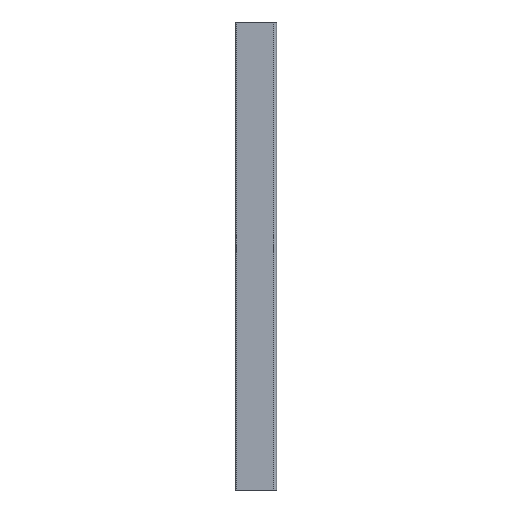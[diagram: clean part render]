
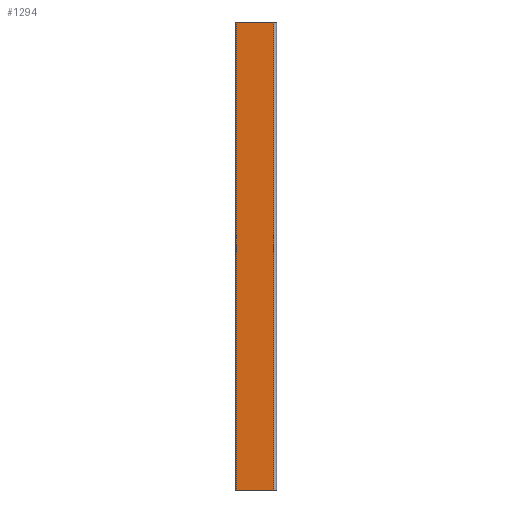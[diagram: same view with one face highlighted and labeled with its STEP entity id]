
A CAD part, front view. The second image highlights one B-rep face of the part: STEP entity #1294.
In plain terms, the highlighted planar face has unit normal (0, -1, 0).
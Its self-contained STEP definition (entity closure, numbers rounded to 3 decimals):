
#29 = ORIENTED_EDGE ( 'NONE', *, *, #627, .T. ) ;
#53 = DIRECTION ( 'NONE',  ( 1., 0., 0. ) ) ;
#68 = CARTESIAN_POINT ( 'NONE',  ( -10.5, -15., 0. ) ) ;
#135 = ORIENTED_EDGE ( 'NONE', *, *, #1273, .F. ) ;
#181 = DIRECTION ( 'NONE',  ( 1., 0., 0. ) ) ;
#210 = EDGE_LOOP ( 'NONE', ( #135, #1396, #328, #29 ) ) ;
#260 = CARTESIAN_POINT ( 'NONE',  ( 30.5, -15., 0. ) ) ;
#264 = DIRECTION ( 'NONE',  ( 0., 0., -1. ) ) ;
#273 = VECTOR ( 'NONE', #53, 1000. ) ;
#299 = PLANE ( 'NONE',  #496 ) ;
#301 = CARTESIAN_POINT ( 'NONE',  ( 30.5, -15., -500. ) ) ;
#328 = ORIENTED_EDGE ( 'NONE', *, *, #1003, .T. ) ;
#361 = VERTEX_POINT ( 'NONE', #260 ) ;
#371 = LINE ( 'NONE', #821, #721 ) ;
#470 = CARTESIAN_POINT ( 'NONE',  ( -9.5, -15., 0. ) ) ;
#496 = AXIS2_PLACEMENT_3D ( 'NONE', #729, #1166, #608 ) ;
#499 = LINE ( 'NONE', #921, #273 ) ;
#526 = CARTESIAN_POINT ( 'NONE',  ( -9.5, -15., -500. ) ) ;
#563 = VECTOR ( 'NONE', #181, 1000. ) ;
#608 = DIRECTION ( 'NONE',  ( 1., 0., 0. ) ) ;
#612 = VERTEX_POINT ( 'NONE', #470 ) ;
#627 = EDGE_CURVE ( 'NONE', #1066, #361, #1320, .T. ) ;
#679 = CARTESIAN_POINT ( 'NONE',  ( 30.5, -15., -500. ) ) ;
#721 = VECTOR ( 'NONE', #264, 1000. ) ;
#729 = CARTESIAN_POINT ( 'NONE',  ( -10.5, -15., -500. ) ) ;
#756 = EDGE_CURVE ( 'NONE', #612, #1214, #371, .T. ) ;
#821 = CARTESIAN_POINT ( 'NONE',  ( -9.5, -15., -500. ) ) ;
#921 = CARTESIAN_POINT ( 'NONE',  ( -10.5, -15., -500. ) ) ;
#940 = LINE ( 'NONE', #68, #563 ) ;
#992 = DIRECTION ( 'NONE',  ( 0., 0., 1. ) ) ;
#1003 = EDGE_CURVE ( 'NONE', #1214, #1066, #499, .T. ) ;
#1066 = VERTEX_POINT ( 'NONE', #301 ) ;
#1166 = DIRECTION ( 'NONE',  ( 0., -1., 0. ) ) ;
#1214 = VERTEX_POINT ( 'NONE', #526 ) ;
#1241 = VECTOR ( 'NONE', #992, 1000. ) ;
#1273 = EDGE_CURVE ( 'NONE', #612, #361, #940, .T. ) ;
#1274 = FACE_OUTER_BOUND ( 'NONE', #210, .T. ) ;
#1294 = ADVANCED_FACE ( 'NONE', ( #1274 ), #299, .T. ) ;
#1320 = LINE ( 'NONE', #679, #1241 ) ;
#1396 = ORIENTED_EDGE ( 'NONE', *, *, #756, .T. ) ;
